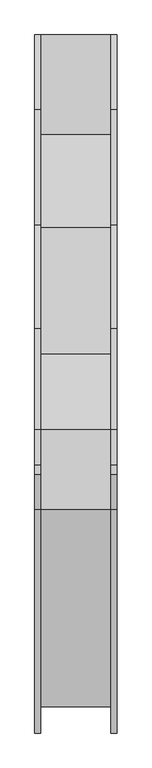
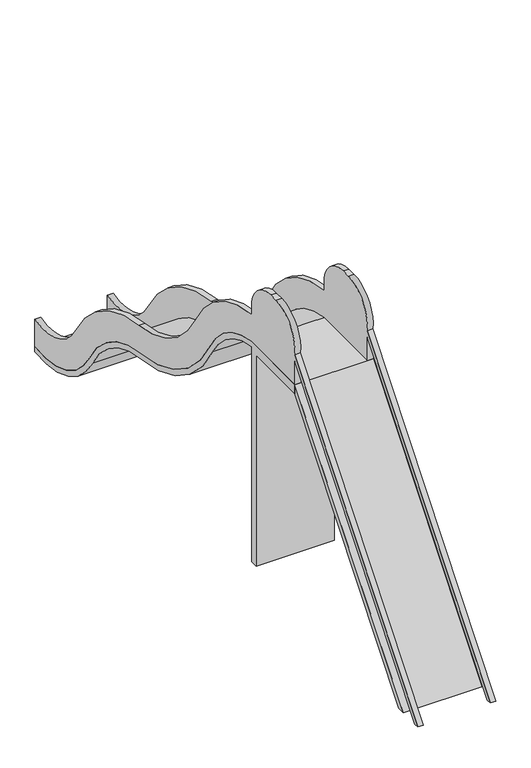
"""IFC4 building model written with IfcOpenShell, lengths in millimetres: furniture geometry, Rutsche : Rutsche."""

from ifc_helpers import new_model, si_unit, point, frame, frame_2d, origin, place, context, project, spatial, polyline, circle_curve, trimmed, segment, composite_curve, outline, extrude, source, transform, mapped, element, save


def furniture_3bc6ac6a(model_context):
    return source(origin(), model_context, "Body", "SweptSolid", [
        extrude(outline(composite_curve([segment(polyline([(0.0, 1372.2177235), (-1106.6271963, 0.0), (-1132.3204967, 0.0), (1.8713363, 1406.3978728)]), True, "CONTINUOUS"), segment(trimmed(circle_curve(frame_2d((176.0695885, 1432.0)), 176.0695885), [point((1.8713363, 1406.3978728))], [point((176.0695885, 1608.0695885))], False, "CARTESIAN"), True, "CONTINUOUS"), segment(polyline([(176.0695885, 1608.0695885), (223.9304115, 1608.0695885)]), True, "CONTINUOUS"), segment(trimmed(circle_curve(frame_2d((223.9304115, 1432.0)), 176.0695885), [point((223.9304115, 1608.0695885))], [point((400.0, 1432.0))], False, "CARTESIAN"), True, "CONTINUOUS"), segment(polyline([(400.0, 1432.0), (400.0, 1390.9377545)]), True, "CONTINUOUS"), segment(trimmed(circle_curve(frame_2d((335.3359946, 733.2259683)), 660.882915), [point((400.0, 1390.9377545))], [point((914.8695583, 1050.8847095))], False, "CARTESIAN"), True, "CONTINUOUS"), segment(trimmed(circle_curve(frame_2d((1511.5017145, 1377.9156729)), 680.3816436), [point((914.8695583, 1050.8847095))], [point((1438.2234646, 701.4916351))], True, "CARTESIAN"), True, "CONTINUOUS"), segment(trimmed(circle_curve(frame_2d((1355.6633016, -60.6127948)), 766.5633324), [point((1438.2234646, 701.4916351))], [point((2021.9241629, 318.4858827))], False, "CARTESIAN"), True, "CONTINUOUS"), segment(trimmed(circle_curve(frame_2d((2320.6641107, 488.4672303)), 343.7138562), [point((2021.9241629, 318.4858827))], [point((2396.8114234, 153.2944365))], True, "CARTESIAN"), True, "CONTINUOUS"), segment(polyline([(2396.8114234, 153.2944365), (2396.8114234, 0.6609587)]), True, "CONTINUOUS"), segment(trimmed(circle_curve(frame_2d((2320.6641107, 488.4672303)), 493.7138562), [point((2396.8114234, 0.6609587))], [point((1891.5512048, 244.3044038))], False, "CARTESIAN"), True, "CONTINUOUS"), segment(trimmed(circle_curve(frame_2d((1355.6633016, -60.6127948)), 616.5633324), [point((1891.5512048, 244.3044038))], [point((1422.0682118, 552.3641467))], True, "CARTESIAN"), True, "CONTINUOUS"), segment(trimmed(circle_curve(frame_2d((1511.5017145, 1377.9156729)), 830.3816436), [point((1422.0682118, 552.3641467))], [point((783.3333473, 978.7859911))], False, "CARTESIAN"), True, "CONTINUOUS"), segment(trimmed(circle_curve(frame_2d((335.3359946, 733.2259683)), 510.882915), [point((783.3333473, 978.7859911))], [point((400.0, 1240.0))], True, "CARTESIAN"), True, "CONTINUOUS"), segment(polyline([(400.0, 1240.0), (0.0, 1240.0), (0.0, 1372.2177235)]), True, "CONTINUOUS")], self_intersect=False)), frame((385.6511751, 0.0, 0.0), z_axis=(1.0, 0.0, 0.0), x_axis=(0.0, 1.0, 0.0)), (0.0, 0.0, 1.0), 30.0),
        extrude(outline(composite_curve([segment(polyline([(0.0, 1372.2177235), (-1106.6271963, 0.0), (-1132.3204967, 0.0), (1.8713363, 1406.3978728)]), True, "CONTINUOUS"), segment(trimmed(circle_curve(frame_2d((176.0695885, 1432.0)), 176.0695885), [point((1.8713363, 1406.3978728))], [point((176.0695885, 1608.0695885))], False, "CARTESIAN"), True, "CONTINUOUS"), segment(polyline([(176.0695885, 1608.0695885), (223.9304115, 1608.0695885)]), True, "CONTINUOUS"), segment(trimmed(circle_curve(frame_2d((223.9304115, 1432.0)), 176.0695885), [point((223.9304115, 1608.0695885))], [point((400.0, 1432.0))], False, "CARTESIAN"), True, "CONTINUOUS"), segment(polyline([(400.0, 1432.0), (400.0, 1390.9377545)]), True, "CONTINUOUS"), segment(trimmed(circle_curve(frame_2d((335.3359946, 733.2259683)), 660.882915), [point((400.0, 1390.9377545))], [point((914.8695583, 1050.8847095))], False, "CARTESIAN"), True, "CONTINUOUS"), segment(trimmed(circle_curve(frame_2d((1511.5017145, 1377.9156729)), 680.3816436), [point((914.8695583, 1050.8847095))], [point((1438.2234646, 701.4916351))], True, "CARTESIAN"), True, "CONTINUOUS"), segment(trimmed(circle_curve(frame_2d((1355.6633016, -60.6127948)), 766.5633324), [point((1438.2234646, 701.4916351))], [point((2021.9241629, 318.4858827))], False, "CARTESIAN"), True, "CONTINUOUS"), segment(trimmed(circle_curve(frame_2d((2320.6641107, 488.4672303)), 343.7138562), [point((2021.9241629, 318.4858827))], [point((2396.8114234, 153.2944365))], True, "CARTESIAN"), True, "CONTINUOUS"), segment(polyline([(2396.8114234, 153.2944365), (2396.8114234, 0.6609587)]), True, "CONTINUOUS"), segment(trimmed(circle_curve(frame_2d((2320.6641107, 488.4672303)), 493.7138562), [point((2396.8114234, 0.6609587))], [point((1891.5512048, 244.3044038))], False, "CARTESIAN"), True, "CONTINUOUS"), segment(trimmed(circle_curve(frame_2d((1355.6633016, -60.6127948)), 616.5633324), [point((1891.5512048, 244.3044038))], [point((1422.0682118, 552.3641467))], True, "CARTESIAN"), True, "CONTINUOUS"), segment(trimmed(circle_curve(frame_2d((1511.5017145, 1377.9156729)), 830.3816436), [point((1422.0682118, 552.3641467))], [point((783.3333473, 978.7859911))], False, "CARTESIAN"), True, "CONTINUOUS"), segment(trimmed(circle_curve(frame_2d((335.3359946, 733.2259683)), 510.882915), [point((783.3333473, 978.7859911))], [point((400.0, 1240.0))], True, "CARTESIAN"), True, "CONTINUOUS"), segment(polyline([(400.0, 1240.0), (0.0, 1240.0), (0.0, 1372.2177235)]), True, "CONTINUOUS")], self_intersect=False)), frame((0.0, 0.0, 0.0), z_axis=(1.0, 0.0, 0.0), x_axis=(0.0, 1.0, 0.0)), (0.0, 0.0, 1.0), 30.3078488),
        extrude(outline(polyline([(-1000.0, 0.0), (0.0, 1240.0), (0.0, 1188.5847498), (-958.5360885, 0.0), (-1000.0, 0.0)])), frame((0.0, 0.0, 0.0), z_axis=(1.0, 0.0, 0.0), x_axis=(0.0, 1.0, 0.0)), (0.0, 0.0, 1.0), 415.6511751),
        extrude(outline(composite_curve([segment(polyline([(358.0, 1188.5847498), (0.0, 1188.5847498), (0.0, 1240.0), (400.0, 1240.0)]), True, "CONTINUOUS"), segment(trimmed(circle_curve(frame_2d((335.3359946, 733.2259683)), 510.882915), [point((400.0, 1240.0))], [point((783.3333473, 978.7859911))], False, "CARTESIAN"), True, "CONTINUOUS"), segment(trimmed(circle_curve(frame_2d((1511.5017145, 1377.9156729)), 830.3816436), [point((783.3333473, 978.7859911))], [point((1422.0682118, 552.3641467))], True, "CARTESIAN"), True, "CONTINUOUS"), segment(trimmed(circle_curve(frame_2d((1355.6633016, -60.6127948)), 616.5633324), [point((1422.0682118, 552.3641467))], [point((1891.5512048, 244.3044038))], False, "CARTESIAN"), True, "CONTINUOUS"), segment(trimmed(circle_curve(frame_2d((2320.6641107, 488.4672303)), 493.7138562), [point((1891.5512048, 244.3044038))], [point((2396.8114234, 0.6609587))], True, "CARTESIAN"), True, "CONTINUOUS"), segment(polyline([(2396.8114234, 0.6609587), (2396.8114234, -29.6811943)]), True, "CONTINUOUS"), segment(trimmed(circle_curve(frame_2d((2320.6641107, 488.4672303)), 523.7138562), [point((2396.8114234, -29.6811943))], [point((1865.4766132, 229.4681081))], False, "CARTESIAN"), True, "CONTINUOUS"), segment(trimmed(circle_curve(frame_2d((1355.6633016, -60.6127948)), 586.5633324), [point((1865.4766132, 229.4681081))], [point((1418.8371612, 522.538649))], True, "CARTESIAN"), True, "CONTINUOUS"), segment(trimmed(circle_curve(frame_2d((1511.5017145, 1377.9156729)), 860.3816436), [point((1418.8371612, 522.538649))], [point((757.0261051, 964.3662474))], False, "CARTESIAN"), True, "CONTINUOUS"), segment(trimmed(circle_curve(frame_2d((335.3359946, 733.2259683)), 480.882915), [point((757.0261051, 964.3662474))], [point((400.0, 1209.7413871))], True, "CARTESIAN"), True, "CONTINUOUS"), segment(polyline([(400.0, 1209.7413871), (400.0, 1181.4759348), (400.0, 0.0), (358.0, 0.0), (358.0, 1188.5847498)]), True, "CONTINUOUS")], self_intersect=False)), frame((0.0, 0.0, 0.0), z_axis=(1.0, 0.0, 0.0), x_axis=(0.0, 1.0, 0.0)), (0.0, 0.0, 1.0), 415.6511751),
    ])


if __name__ == "__main__":
    model = new_model("IFC4")
    model_context = context("Model", 3, world=origin())
    ifc_project = project(units=[si_unit("LENGTHUNIT", "METRE", prefix="MILLI")], contexts=[model_context])
    site = spatial("IfcSite", under=ifc_project)
    building = spatial("IfcBuilding", under=site)
    placement = place(None, origin())
    furniture_shape = furniture_3bc6ac6a(model_context)
    element("IfcFurniture", 1, ObjectType="Rutsche : Rutsche", at=placement, inside=building, context=model_context, shape_type="MappedRepresentation", body=[
        mapped(furniture_shape, transform((0.0, 0.0, 0.0), x_axis=(1.0, 0.0, 0.0), y_axis=(0.0, 1.0, 0.0), z_axis=(0.0, 0.0, 1.0))),
    ])
    save(model, "model.ifc")
